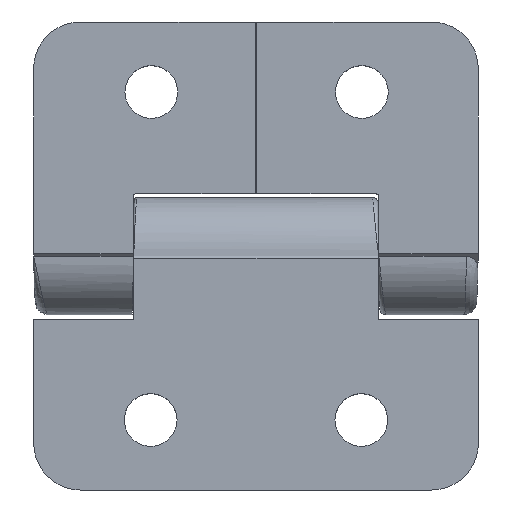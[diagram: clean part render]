
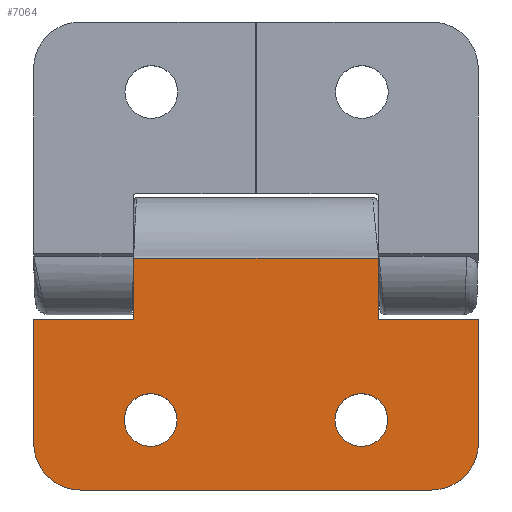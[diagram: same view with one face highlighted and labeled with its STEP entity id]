
A CAD part, top view. The second image highlights one B-rep face of the part: STEP entity #7064.
In plain terms, the highlighted planar face has unit normal (0, 0, 1).
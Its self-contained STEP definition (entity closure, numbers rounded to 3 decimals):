
#289 = CARTESIAN_POINT ( 'NONE',  ( -19.025, -16.002, 0.025 ) ) ;
#290 = CARTESIAN_POINT ( 'NONE',  ( -10.475, -5.395, 0.025 ) ) ;
#299 = CARTESIAN_POINT ( 'NONE',  ( 10.425, -5.395, 0.025 ) ) ;
#302 = CARTESIAN_POINT ( 'NONE',  ( -15.027, -20., 0.025 ) ) ;
#304 = CARTESIAN_POINT ( 'NONE',  ( -19.025, -5.395, 0.025 ) ) ;
#312 = CARTESIAN_POINT ( 'NONE',  ( 14.977, -20., 0.025 ) ) ;
#330 = CARTESIAN_POINT ( 'NONE',  ( 18.975, -16.002, 0.025 ) ) ;
#335 = CARTESIAN_POINT ( 'NONE',  ( -10.475, -0.2, 0.025 ) ) ;
#341 = CARTESIAN_POINT ( 'NONE',  ( 10.425, -0.2, 0.025 ) ) ;
#358 = CARTESIAN_POINT ( 'NONE',  ( 18.975, -5.395, 0.025 ) ) ;
#883 = ORIENTED_EDGE ( 'NONE', *, *, #5000, .F. ) ;
#884 = ORIENTED_EDGE ( 'NONE', *, *, #1491, .F. ) ;
#885 = ORIENTED_EDGE ( 'NONE', *, *, #4999, .F. ) ;
#886 = ORIENTED_EDGE ( 'NONE', *, *, #1495, .F. ) ;
#887 = ORIENTED_EDGE ( 'NONE', *, *, #4989, .F. ) ;
#888 = ORIENTED_EDGE ( 'NONE', *, *, #5012, .T. ) ;
#889 = ORIENTED_EDGE ( 'NONE', *, *, #4985, .F. ) ;
#890 = ORIENTED_EDGE ( 'NONE', *, *, #5013, .T. ) ;
#891 = ORIENTED_EDGE ( 'NONE', *, *, #4981, .F. ) ;
#892 = ORIENTED_EDGE ( 'NONE', *, *, #4977, .F. ) ;
#893 = ORIENTED_EDGE ( 'NONE', *, *, #5014, .T. ) ;
#894 = ORIENTED_EDGE ( 'NONE', *, *, #4997, .F. ) ;
#895 = ORIENTED_EDGE ( 'NONE', *, *, #5015, .F. ) ;
#896 = ORIENTED_EDGE ( 'NONE', *, *, #4994, .F. ) ;
#1015 = VERTEX_POINT ( 'NONE', #358 ) ;
#1025 = VERTEX_POINT ( 'NONE', #341 ) ;
#1028 = VERTEX_POINT ( 'NONE', #335 ) ;
#1030 = VERTEX_POINT ( 'NONE', #330 ) ;
#1040 = VERTEX_POINT ( 'NONE', #312 ) ;
#1048 = VERTEX_POINT ( 'NONE', #304 ) ;
#1050 = VERTEX_POINT ( 'NONE', #302 ) ;
#1053 = VERTEX_POINT ( 'NONE', #299 ) ;
#1062 = VERTEX_POINT ( 'NONE', #290 ) ;
#1063 = VERTEX_POINT ( 'NONE', #289 ) ;
#1491 = EDGE_CURVE ( 'NONE', #3658, #3662, #6565, .T. ) ;
#1495 = EDGE_CURVE ( 'NONE', #3656, #3668, #6571, .T. ) ;
#2881 = EDGE_LOOP ( 'NONE', ( #885, #886 ) ) ;
#2904 = EDGE_LOOP ( 'NONE', ( #883, #884 ) ) ;
#2926 = EDGE_LOOP ( 'NONE', ( #887, #888, #889, #890, #891, #892, #893, #894, #895, #896 ) ) ;
#3656 = VERTEX_POINT ( 'NONE', #4427 ) ;
#3658 = VERTEX_POINT ( 'NONE', #4429 ) ;
#3662 = VERTEX_POINT ( 'NONE', #4431 ) ;
#3668 = VERTEX_POINT ( 'NONE', #4437 ) ;
#4335 =( BOUNDED_CURVE ( )  B_SPLINE_CURVE ( 3, ( #4810, #4811, #4815, #4816 ),
 .UNSPECIFIED., .F., .F. ) 
 B_SPLINE_CURVE_WITH_KNOTS ( ( 4, 4 ),
 ( 5.498, 7.068 ),
 .UNSPECIFIED. ) 
 CURVE ( )  GEOMETRIC_REPRESENTATION_ITEM ( )  RATIONAL_B_SPLINE_CURVE ( ( 1., 0.805, 0.805, 1. ) ) 
 REPRESENTATION_ITEM ( '' )  );
#4336 =( BOUNDED_CURVE ( )  B_SPLINE_CURVE ( 3, ( #4798, #4800, #4817, #4818 ),
 .UNSPECIFIED., .F., .T. ) 
 B_SPLINE_CURVE_WITH_KNOTS ( ( 4, 4 ),
 ( 5.498, 7.068 ),
 .UNSPECIFIED. ) 
 CURVE ( )  GEOMETRIC_REPRESENTATION_ITEM ( )  RATIONAL_B_SPLINE_CURVE ( ( 1., 0.805, 0.805, 1. ) ) 
 REPRESENTATION_ITEM ( '' )  );
#4427 = CARTESIAN_POINT ( 'NONE',  ( -11.275, -14.016, 0.025 ) ) ;
#4429 = CARTESIAN_POINT ( 'NONE',  ( 6.725, -14.016, 0.025 ) ) ;
#4431 = CARTESIAN_POINT ( 'NONE',  ( 11.225, -14.016, 0.025 ) ) ;
#4437 = CARTESIAN_POINT ( 'NONE',  ( -6.775, -14.016, 0.025 ) ) ;
#4620 = CARTESIAN_POINT ( 'NONE',  ( -0.025, -5.395, 0.025 ) ) ;
#4621 = DIRECTION ( 'NONE',  ( 1., 0., 0. ) ) ;
#4630 = CARTESIAN_POINT ( 'NONE',  ( 18.975, -7.25, 0.025 ) ) ;
#4631 = DIRECTION ( 'NONE',  ( 0., -1., 0. ) ) ;
#4638 = CARTESIAN_POINT ( 'NONE',  ( -0.025, -20., 0.025 ) ) ;
#4639 = DIRECTION ( 'NONE',  ( -1., 0., 0. ) ) ;
#4648 = CARTESIAN_POINT ( 'NONE',  ( -19.025, -7.25, 0.025 ) ) ;
#4649 = DIRECTION ( 'NONE',  ( 0., 1., 0. ) ) ;
#4652 = CARTESIAN_POINT ( 'NONE',  ( -0.025, -5.395, 0.025 ) ) ;
#4653 = CARTESIAN_POINT ( 'NONE',  ( -0.025, -0.2, 0.025 ) ) ;
#4660 = DIRECTION ( 'NONE',  ( 1., 0., 0. ) ) ;
#4665 = DIRECTION ( 'NONE',  ( 1., 0., 0. ) ) ;
#4669 = CARTESIAN_POINT ( 'NONE',  ( -9.025, -14.016, 0.025 ) ) ;
#4670 = DIRECTION ( 'NONE',  ( 0., 0., 1. ) ) ;
#4671 = DIRECTION ( 'NONE',  ( 1., 0., 0. ) ) ;
#4674 = CARTESIAN_POINT ( 'NONE',  ( 8.975, -14.016, 0.025 ) ) ;
#4675 = DIRECTION ( 'NONE',  ( 0., 0., 1. ) ) ;
#4676 = DIRECTION ( 'NONE',  ( 1., 0., 0. ) ) ;
#4798 = CARTESIAN_POINT ( 'NONE',  ( 14.977, -20., 0.025 ) ) ;
#4800 = CARTESIAN_POINT ( 'NONE',  ( 17.32, -20., 0.025 ) ) ;
#4810 = CARTESIAN_POINT ( 'NONE',  ( -19.025, -16.002, 0.025 ) ) ;
#4811 = CARTESIAN_POINT ( 'NONE',  ( -19.025, -18.345, 0.025 ) ) ;
#4815 = CARTESIAN_POINT ( 'NONE',  ( -17.37, -20., 0.025 ) ) ;
#4816 = CARTESIAN_POINT ( 'NONE',  ( -15.027, -20., 0.025 ) ) ;
#4817 = CARTESIAN_POINT ( 'NONE',  ( 18.975, -18.345, 0.025 ) ) ;
#4818 = CARTESIAN_POINT ( 'NONE',  ( 18.975, -16.002, 0.025 ) ) ;
#4819 = CARTESIAN_POINT ( 'NONE',  ( 10.425, -2.545, 0.025 ) ) ;
#4820 = DIRECTION ( 'NONE',  ( 0., 1., 0. ) ) ;
#4821 = CARTESIAN_POINT ( 'NONE',  ( -10.475, -0.003, 0.025 ) ) ;
#4822 = DIRECTION ( 'NONE',  ( 0., 1., 0. ) ) ;
#4977 = EDGE_CURVE ( 'NONE', #1053, #1015, #6665, .T. ) ;
#4981 = EDGE_CURVE ( 'NONE', #1015, #1030, #6672, .T. ) ;
#4985 = EDGE_CURVE ( 'NONE', #1040, #1050, #6679, .T. ) ;
#4989 = EDGE_CURVE ( 'NONE', #1063, #1048, #6685, .T. ) ;
#4994 = EDGE_CURVE ( 'NONE', #1048, #1062, #6682, .T. ) ;
#4997 = EDGE_CURVE ( 'NONE', #1028, #1025, #6693, .T. ) ;
#4999 = EDGE_CURVE ( 'NONE', #3668, #3656, #6702, .T. ) ;
#5000 = EDGE_CURVE ( 'NONE', #3662, #3658, #6704, .T. ) ;
#5012 = EDGE_CURVE ( 'NONE', #1063, #1050, #4335, .T. ) ;
#5013 = EDGE_CURVE ( 'NONE', #1040, #1030, #4336, .T. ) ;
#5014 = EDGE_CURVE ( 'NONE', #1053, #1025, #6712, .T. ) ;
#5015 = EDGE_CURVE ( 'NONE', #1062, #1028, #6713, .T. ) ;
#5112 = AXIS2_PLACEMENT_3D ( 'NONE', #5911, #5912, #5913 ) ;
#5114 = AXIS2_PLACEMENT_3D ( 'NONE', #5921, #5922, #5923 ) ;
#5149 = AXIS2_PLACEMENT_3D ( 'NONE', #4669, #4670, #4671 ) ;
#5150 = AXIS2_PLACEMENT_3D ( 'NONE', #4674, #4675, #4676 ) ;
#5211 = AXIS2_PLACEMENT_3D ( 'NONE', #7413, #7409, #7415 ) ;
#5911 = CARTESIAN_POINT ( 'NONE',  ( 8.975, -14.016, 0.025 ) ) ;
#5912 = DIRECTION ( 'NONE',  ( 0., 0., 1. ) ) ;
#5913 = DIRECTION ( 'NONE',  ( 1., 0., 0. ) ) ;
#5921 = CARTESIAN_POINT ( 'NONE',  ( -9.025, -14.016, 0.025 ) ) ;
#5922 = DIRECTION ( 'NONE',  ( 0., 0., 1. ) ) ;
#5923 = DIRECTION ( 'NONE',  ( 1., 0., 0. ) ) ;
#6565 = CIRCLE ( 'NONE', #5112, 2.25 ) ;
#6571 = CIRCLE ( 'NONE', #5114, 2.25 ) ;
#6665 = LINE ( 'NONE', #4620, #6668 ) ;
#6668 = VECTOR ( 'NONE', #4621, 1000. ) ;
#6672 = LINE ( 'NONE', #4630, #6674 ) ;
#6674 = VECTOR ( 'NONE', #4631, 1000. ) ;
#6679 = LINE ( 'NONE', #4638, #6681 ) ;
#6681 = VECTOR ( 'NONE', #4639, 1000. ) ;
#6682 = LINE ( 'NONE', #4652, #6696 ) ;
#6685 = LINE ( 'NONE', #4648, #6688 ) ;
#6688 = VECTOR ( 'NONE', #4649, 1000. ) ;
#6693 = LINE ( 'NONE', #4653, #6701 ) ;
#6696 = VECTOR ( 'NONE', #4660, 1000. ) ;
#6701 = VECTOR ( 'NONE', #4665, 1000. ) ;
#6702 = CIRCLE ( 'NONE', #5149, 2.25 ) ;
#6704 = CIRCLE ( 'NONE', #5150, 2.25 ) ;
#6712 = LINE ( 'NONE', #4819, #6714 ) ;
#6713 = LINE ( 'NONE', #4821, #6716 ) ;
#6714 = VECTOR ( 'NONE', #4820, 1000. ) ;
#6716 = VECTOR ( 'NONE', #4822, 1000. ) ;
#6862 = FACE_OUTER_BOUND ( 'NONE', #2926, .T. ) ;
#6866 = FACE_BOUND ( 'NONE', #2904, .T. ) ;
#6870 = FACE_BOUND ( 'NONE', #2881, .T. ) ;
#7064 = ADVANCED_FACE ( 'NONE', ( #6866, #6870, #6862 ), #7414, .F. ) ;
#7409 = DIRECTION ( 'NONE',  ( 0., 0., -1. ) ) ;
#7413 = CARTESIAN_POINT ( 'NONE',  ( -0.025, -7.25, 0.025 ) ) ;
#7414 = PLANE ( 'NONE',  #5211 ) ;
#7415 = DIRECTION ( 'NONE',  ( -1., 0., 0. ) ) ;
